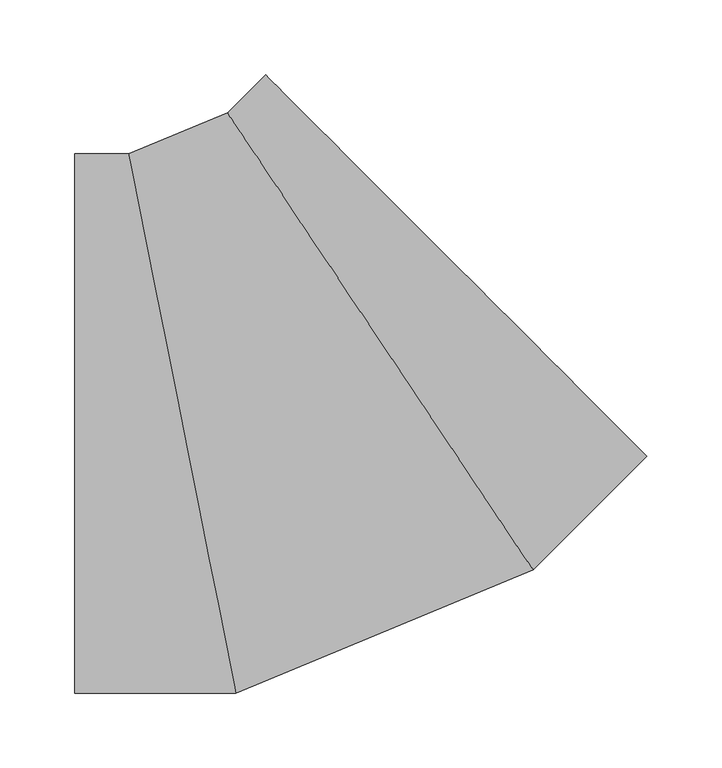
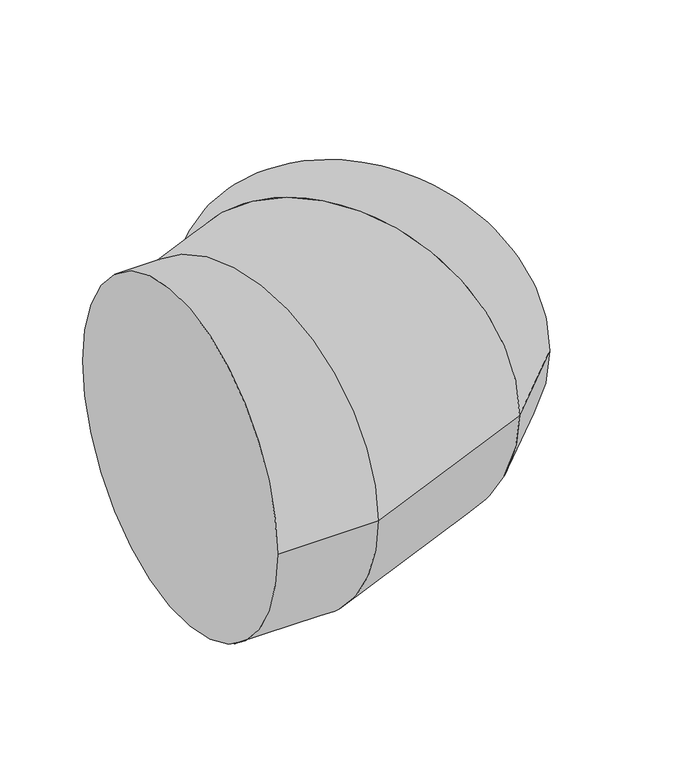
"""IFC4 building model written with IfcOpenShell, lengths in millimetres: duct fitting geometry, 17_Отвод_Заключение : 10_Отвод_3D объект."""

import ifcopenshell
import ifcopenshell.guid

model = None  # the IFC model being written
_history = None  # IfcOwnerHistory: only IFC2X3 demands one
_inside = {}  # id of a spatial element -> (the spatial element, [elements in it])
_under = {}  # id of a project, library or spatial element -> (it, [spatial elements below it])
_declared = {}  # id of a project -> (the project, [libraries it declares])
_typed = {}  # id of a type object -> (the type object, [elements of that type])
_made_of = {}  # id of a material, layer set ... -> (it, [elements and type objects made of it])


def new_model(schema):
    """Start an empty IFC model of exactly this schema.

    Asked for "IFC4X3", IfcOpenShell would pick the latest addendum, in which some entities
    have other attributes; the version numbers below select the first issue.
    IFC2X3 requires an IfcOwnerHistory on every rooted entity: one is made here for all.
    """
    global model, _history
    if schema == "IFC4X3":
        model = ifcopenshell.file(schema_version=(4, 3, 0, 0))
    else:
        model = ifcopenshell.file(schema=schema)
    _inside.clear()
    _under.clear()
    _declared.clear()
    _typed.clear()
    _made_of.clear()
    _history = None
    if model.schema == "IFC2X3":
        org = make("IfcOrganization", Name="unknown")
        user = make(
            "IfcPersonAndOrganization",
            ThePerson=make("IfcPerson", FamilyName="unknown"),
            TheOrganization=org,
        )
        app = make(
            "IfcApplication",
            ApplicationDeveloper=org,
            Version="unknown",
            ApplicationFullName="unknown",
            ApplicationIdentifier="unknown",
        )
        _history = make(
            "IfcOwnerHistory",
            OwningUser=user,
            OwningApplication=app,
            ChangeAction="ADDED",
            CreationDate=0,
        )
    return model


def make(cls, **values):
    """One entity of the class cls with the attributes given. An attribute that is None is left unset."""
    return model.create_entity(
        cls, **{name: value for name, value in values.items() if value is not None}
    )


def rooted(cls, **values):
    """An entity with a GlobalId (a new one), such as an element, a storey or a relation."""
    return make(cls, GlobalId=ifcopenshell.guid.new(), OwnerHistory=_history, **values)


def si_unit(unit_type, name, prefix=None):
    """IfcSIUnit, for example si_unit("LENGTHUNIT", "METRE", prefix="MILLI")."""
    return make("IfcSIUnit", UnitType=unit_type, Prefix=prefix, Name=name)


def assignment(units):
    """IfcUnitAssignment: the units of a project."""
    return None if units is None else make("IfcUnitAssignment", Units=units)


def point(xyz):
    """IfcCartesianPoint."""
    return None if xyz is None else make("IfcCartesianPoint", Coordinates=xyz)


def direction(xyz):
    """IfcDirection."""
    return None if xyz is None else make("IfcDirection", DirectionRatios=xyz)


def frame(location, z_axis=None, x_axis=None):
    """IfcAxis2Placement3D, a coordinate frame: its origin and axes. An axis left out is left unset."""
    return make(
        "IfcAxis2Placement3D",
        Location=point(location),
        Axis=direction(z_axis),
        RefDirection=direction(x_axis),
    )


def origin():
    """The frame at (0, 0, 0) with its axes left unset."""
    return frame((0.0, 0.0, 0.0))


def place(relative_to, where):
    """IfcLocalPlacement: puts the frame where relative to a parent placement (None: the world)."""
    return make(
        "IfcLocalPlacement", PlacementRelTo=relative_to, RelativePlacement=where
    )


def context(
    kind, dimensions, precision=None, world=None, true_north=None, identifier=None
):
    """IfcGeometricRepresentationContext, for example the 3D "Model" context."""
    return make(
        "IfcGeometricRepresentationContext",
        ContextIdentifier=identifier,
        ContextType=kind,
        CoordinateSpaceDimension=dimensions,
        Precision=precision,
        WorldCoordinateSystem=world,
        TrueNorth=true_north,
    )


def project(units=None, contexts=None):
    """IfcProject with its units and contexts."""
    return rooted(
        "IfcProject",
        Name="project",
        RepresentationContexts=contexts,
        UnitsInContext=assignment(units),
    )


def spatial(cls, under=None, at=None, **own):
    """A site, building, storey or space (cls), placed at a placement, below another one or the project."""
    s = rooted(cls, ObjectPlacement=at, **own)
    if under is not None:
        _under.setdefault(under.id(), (under, []))[1].append(s)
    return s


def circle_curve(where, radius):
    """IfcCircle in the frame where."""
    return make("IfcCircle", Position=where, Radius=radius)


def ellipse_curve(where, semi_axis1, semi_axis2):
    """IfcEllipse in the frame where."""
    return make(
        "IfcEllipse", Position=where, SemiAxis1=semi_axis1, SemiAxis2=semi_axis2
    )


def shape(context_of_items, identifier, shape_type, items):
    """IfcShapeRepresentation: the items that make up one representation, for example the "Body"."""
    return make(
        "IfcShapeRepresentation",
        ContextOfItems=context_of_items,
        RepresentationIdentifier=identifier,
        RepresentationType=shape_type,
        Items=items,
    )


def source(mapping_origin, context_of_items, identifier, shape_type, items):
    """IfcRepresentationMap: a shape defined once, which mapped items show again and again."""
    return make(
        "IfcRepresentationMap",
        MappingOrigin=mapping_origin,
        MappedRepresentation=shape(context_of_items, identifier, shape_type, items),
    )


def transform(
    local_origin,
    x_axis=None,
    y_axis=None,
    z_axis=None,
    scale=None,
    scale2=None,
    scale3=None,
    uniform=True,
):
    """IfcCartesianTransformationOperator3D, or its non-uniform kind. x_axis, y_axis, z_axis: its Axis1, 2, 3."""
    if uniform:
        return make(
            "IfcCartesianTransformationOperator3D",
            Axis1=direction(x_axis),
            Axis2=direction(y_axis),
            LocalOrigin=point(local_origin),
            Scale=scale,
            Axis3=direction(z_axis),
        )
    return make(
        "IfcCartesianTransformationOperator3DnonUniform",
        Axis1=direction(x_axis),
        Axis2=direction(y_axis),
        LocalOrigin=point(local_origin),
        Scale=scale,
        Axis3=direction(z_axis),
        Scale2=scale2,
        Scale3=scale3,
    )


def mapped(mapping_source, mapping_target):
    """IfcMappedItem: shows the shape of a source again, moved by a transform."""
    return make(
        "IfcMappedItem", MappingSource=mapping_source, MappingTarget=mapping_target
    )


def made_of(thing, what):
    """Note that an element or type object is made of a material, layer set ...; save() writes the relation."""
    if what is not None:
        _made_of.setdefault(what.id(), (what, []))[1].append(thing)
    return thing


def element(
    cls,
    number,
    at=None,
    inside=None,
    cuts=None,
    type_object=None,
    material=None,
    context=None,
    identifier="Body",
    shape_type=None,
    held_by="IfcProductDefinitionShape",
    body=None,
    shapes=None,
    **own,
):
    """One element of the class cls, such as IfcWall. Its Tag is "e" and its number.

    at: its placement. inside: the storey or other place that contains it. cuts: it is an
    opening in that element (IfcRelVoidsElement). A single representation is given by context,
    identifier, shape_type and body (its items); several are given by shapes. held_by: the class
    of the entity that holds the representations. save() writes the other relations.
    """
    e = rooted(cls, Tag="e%d" % number, ObjectPlacement=at, **own)
    if body is not None:
        shapes = [shape(context, identifier, shape_type, body)]
    if shapes is not None:
        e.Representation = make(held_by, Representations=shapes)
    if inside is not None:
        _inside.setdefault(inside.id(), (inside, []))[1].append(e)
    if cuts is not None:
        rooted(
            "IfcRelVoidsElement", RelatingBuildingElement=cuts, RelatedOpeningElement=e
        )
    if type_object is not None:
        _typed.setdefault(type_object.id(), (type_object, []))[1].append(e)
    return made_of(e, material)


def aggregate(whole, parts):
    """IfcRelAggregates: a whole, such as a stair, and the parts it consists of."""
    return rooted("IfcRelAggregates", RelatingObject=whole, RelatedObjects=parts)


def save(model, path):
    """Write the relations noted so far, then the file.

    IfcRelAggregates (storeys below a building ...), IfcRelContainedInSpatialStructure (elements
    in a storey), IfcRelDefinesByType, IfcRelAssociatesMaterial and IfcRelDeclares: one each for
    every whole, place, type object, material and project.
    """
    for whole, parts in _under.values():
        aggregate(whole, parts)
    for where, things in _inside.values():
        rooted(
            "IfcRelContainedInSpatialStructure",
            RelatedElements=things,
            RelatingStructure=where,
        )
    for kind, things in _typed.values():
        rooted("IfcRelDefinesByType", RelatedObjects=things, RelatingType=kind)
    for what, things in _made_of.values():
        rooted("IfcRelAssociatesMaterial", RelatedObjects=things, RelatingMaterial=what)
    for by, libraries in _declared.values():
        rooted("IfcRelDeclares", RelatingContext=by, RelatedDefinitions=libraries)
    model.write(path)


def plane_surface(at):
    """IfcPlane: the flat surface through the origin of the frame at, square to its z axis."""
    return make("IfcPlane", Position=at)


def cylinder_surface(at, radius):
    """IfcCylindricalSurface: all points at the distance radius from the z axis of the frame at."""
    return make("IfcCylindricalSurface", Position=at, Radius=radius)


def advanced_brep(points, edges, surfaces, faces):
    """IfcAdvancedBrep: a solid bounded by faces that lie on surfaces and meet in shared edges.

    An edge is (start, end): straight between two places in points (the first is 0);
    or (start, end, curve); or (start, end, curve, False) where it runs against its curve.
    A face is (place in surfaces, loops), or (place, loops, False) where it looks against
    its surface's normal. A loop lists edges by number (the first is 1), with a minus sign
    where the edge is run from its end to its start. The first loop is the outer one.
    """
    corners = [point(p) for p in points]
    vertices = [make("IfcVertexPoint", VertexGeometry=c) for c in corners]
    made = []
    for start, end, *more in edges:
        made.append(
            make(
                "IfcEdgeCurve",
                EdgeStart=vertices[start],
                EdgeEnd=vertices[end],
                EdgeGeometry=more[0] if more else make("IfcPolyline", Points=[corners[start], corners[end]]),
                SameSense=more[1] if len(more) > 1 else True,
            )
        )
    hull = []
    for where, loops, *sense in faces:
        bounds = []
        for j, loop in enumerate(loops):
            ring = [make("IfcOrientedEdge", EdgeElement=made[abs(k) - 1], Orientation=k > 0) for k in loop]
            bounds.append(
                make(
                    "IfcFaceOuterBound" if j == 0 else "IfcFaceBound",
                    Bound=make("IfcEdgeLoop", EdgeList=ring),
                    Orientation=True,
                )
            )
        hull.append(make("IfcAdvancedFace", Bounds=bounds, FaceSurface=surfaces[where], SameSense=sense[0] if sense else True))
    return make("IfcAdvancedBrep", Outer=make("IfcClosedShell", CfsFaces=hull))


def duct_fitting_fdccc320(model_context):
    return source(origin(), model_context, "Body", "AdvancedBrep", [
        advanced_brep(
        [(-149.1168825, -180.0, 0.0), (-149.1168825, 180.0, 0.0), (-41.7042041, -180.0, 0.0), (-113.3126563, 180.0, 0.0), (156.7685461, -97.7898951, 0.0), (-47.1550729, 207.4033683, 0.0), (232.7207794, -21.8376618, 0.0), (-21.8376618, 232.7207794, 0.0)],
        [
            (0, 1, circle_curve(frame((-149.1168825, 0.0, 0.0), z_axis=(-1.0, 0.0, 0.0), x_axis=(0.0, 1.0, 0.0)), 180.0)),
            (1, 0, circle_curve(frame((-149.1168825, 0.0, 0.0), z_axis=(-1.0, 0.0, 0.0), x_axis=(0.0, 1.0, 0.0)), 180.0)),
            (0, 2),
            (2, 3, ellipse_curve(frame((-77.5084302, 0.0, 0.0), z_axis=(-0.9807852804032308, -0.1950903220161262, 0.0), x_axis=(-0.195090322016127, 0.9807852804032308, 0.0)), 183.5264085, 180.0)),
            (3, 1),
            (3, 2, ellipse_curve(frame((-77.5084302, 0.0, 0.0), z_axis=(-0.9807852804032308, -0.1950903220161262, 0.0), x_axis=(-0.195090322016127, 0.9807852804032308, 0.0)), 183.5264085, 180.0)),
            (2, 4),
            (4, 5, ellipse_curve(frame((54.8067366, 54.8067366, 0.0), z_axis=(-0.8314696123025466, -0.5555702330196, 0.0), x_axis=(-0.555570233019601, 0.831469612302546, 0.0)), 183.5264085, 180.0)),
            (5, 3),
            (5, 4, ellipse_curve(frame((54.8067366, 54.8067366, 0.0), z_axis=(-0.8314696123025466, -0.5555702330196, 0.0), x_axis=(-0.555570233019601, 0.831469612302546, 0.0)), 183.5264085, 180.0)),
            (4, 6),
            (6, 7, circle_curve(frame((105.4415588, 105.4415588, 0.0), z_axis=(-0.7071067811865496, -0.7071067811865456, 0.0), x_axis=(-0.7071067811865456, 0.7071067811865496, 0.0)), 180.0)),
            (7, 5),
            (7, 6, circle_curve(frame((105.4415588, 105.4415588, 0.0), z_axis=(-0.7071067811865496, -0.7071067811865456, 0.0), x_axis=(-0.7071067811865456, 0.7071067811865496, 0.0)), 180.0)),
        ],
        [
            plane_surface(frame((-149.1168825, 0.0, 0.0), z_axis=(-1.0, 0.0, 0.0), x_axis=(0.0, 0.0, 1.0))),
            cylinder_surface(frame((-149.1168825, 0.0, 0.0), z_axis=(-1.0, 0.0, 0.0), x_axis=(0.0, 1.0, 0.0)), 180.0),
            cylinder_surface(frame((-77.5084302, 0.0, 0.0), z_axis=(-0.9238795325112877, -0.3826834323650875, 0.0), x_axis=(-0.3826834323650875, 0.9238795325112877, 0.0)), 180.0),
            cylinder_surface(frame((54.8067366, 54.8067366, 0.0), z_axis=(-0.7071067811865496, -0.7071067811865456, 0.0), x_axis=(-0.7071067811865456, 0.7071067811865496, 0.0)), 180.0),
            plane_surface(frame((105.4415588, 105.4415588, 0.0), z_axis=(0.7071067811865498, 0.7071067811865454, 0.0), x_axis=(0.0, 0.0, 1.0))),
        ],
        [
            (0, [[1, 2]]),
            (1, [[-1, 3, 4, 5]]),
            (1, [[-2, -5, 6, -3]]),
            (2, [[-4, 7, 8, 9]]),
            (2, [[-6, -9, 10, -7]]),
            (3, [[-8, 11, 12, 13]]),
            (3, [[-10, -13, 14, -11]]),
            (4, [[-14, -12]]),
        ],
    ),
    ])


if __name__ == "__main__":
    model = new_model("IFC4")
    model_context = context("Model", 3, world=origin())
    ifc_project = project(units=[si_unit("LENGTHUNIT", "METRE", prefix="MILLI")], contexts=[model_context])
    site = spatial("IfcSite", under=ifc_project)
    building = spatial("IfcBuilding", under=site)
    placement = place(None, origin())
    duct_fitting_shape = duct_fitting_fdccc320(model_context)
    element("IfcDuctFitting", 1, ObjectType="17_Отвод_Заключение : 10_Отвод_3D объект", at=placement, inside=building, context=model_context, shape_type="MappedRepresentation", body=[
        mapped(duct_fitting_shape, transform((0.0, 0.0, 0.0), x_axis=(1.0, 0.0, 0.0), y_axis=(0.0, 1.0, 0.0), z_axis=(0.0, 0.0, 1.0))),
    ])
    save(model, "model.ifc")
